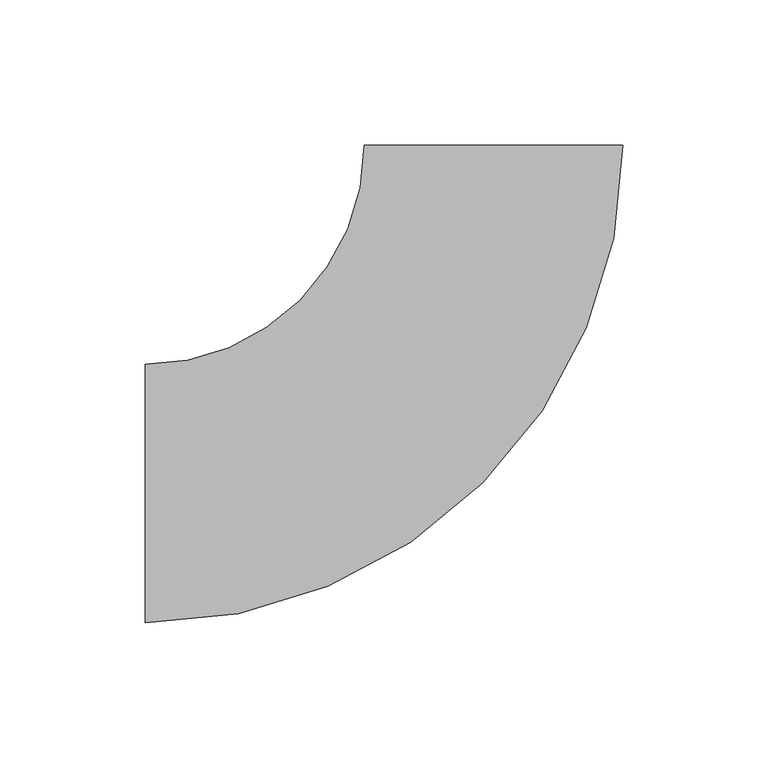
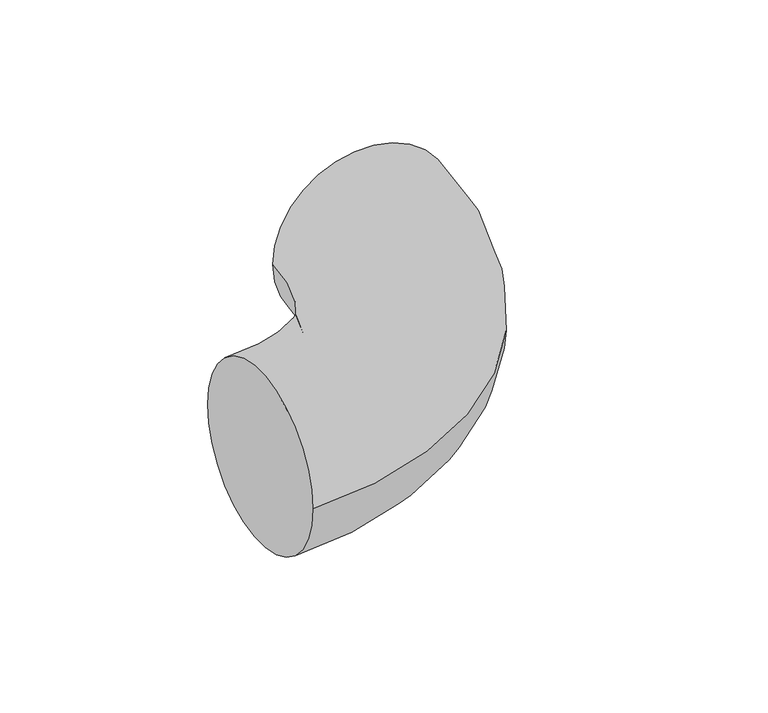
"""IFC4 building model written with IfcOpenShell, lengths in millimetres: pipe fitting geometry, ADSK_ДетальСтальнаяСварная_Отвод_ГОСТ17375-2001 : Исполнение 2."""

from ifc_helpers import new_model, si_unit, point, frame, origin, place, context, project, spatial, circle_curve, ellipse_curve, trimmed, source, transform, mapped, element, save
from ifc_brep_helpers import plane_surface, revolved_surface, advanced_brep


def pipe_fitting_b387f413(model_context):
    return source(origin(), model_context, "Body", "AdvancedBrep", [
        advanced_brep(
        [(-120.0, -44.5, 0.0), (-120.0, 44.5, 0.0), (44.5, 120.0, 0.0), (-44.5, 120.0, 0.0)],
        [
            (0, 1, circle_curve(frame((-120.0, 0.0, 0.0), z_axis=(-1.0, 0.0, 0.0), x_axis=(0.0, 1.0, 0.0)), 44.5)),
            (1, 0, circle_curve(frame((-120.0, 0.0, 0.0), z_axis=(-1.0, 0.0, 0.0), x_axis=(0.0, 1.0, 0.0)), 44.5)),
            (2, 3, circle_curve(frame((0.0, 120.0, 0.0), z_axis=(0.0, 1.0, 0.0), x_axis=(-1.0, 0.0, 0.0)), 44.5)),
            (3, 2, circle_curve(frame((0.0, 120.0, 0.0), z_axis=(0.0, 1.0, 0.0), x_axis=(-1.0, 0.0, 0.0)), 44.5)),
            (3, 1, circle_curve(frame((-120.0, 120.0, 0.0), z_axis=(0.0, 0.0, -1.0), x_axis=(0.0, -1.0, 0.0)), 75.5)),
            (0, 2, circle_curve(frame((-120.0, 120.0, 0.0), z_axis=(0.0, 0.0, 1.0), x_axis=(0.0, -1.0, 0.0)), 164.5)),
        ],
        [
            plane_surface(frame((-120.0, 0.0, 0.0), z_axis=(-1.0, 0.0, 0.0), x_axis=(0.0, 0.0, 1.0))),
            plane_surface(frame((0.0, 120.0, 0.0), z_axis=(0.0, 1.0, 0.0), x_axis=(0.0, 0.0, 1.0))),
            revolved_surface(trimmed(ellipse_curve(frame((-120.0, 0.0, 0.0), z_axis=(-1.0, 0.0, 0.0), x_axis=(0.0, 1.0, 0.0)), 44.5, 44.5), [point((-120.0, -44.5, 0.0))], [point((-120.0, 44.5, 0.0))], True, "CARTESIAN"), (-120.0, 120.0, 0.0), (0.0, 0.0, 1.0)),
            revolved_surface(trimmed(ellipse_curve(frame((-120.0, 0.0, 0.0), z_axis=(-1.0, 0.0, 0.0), x_axis=(0.0, 1.0, 0.0)), 44.5, 44.5), [point((-120.0, 44.5, 0.0))], [point((-120.0, -44.5, 0.0))], True, "CARTESIAN"), (-120.0, 120.0, 0.0), (0.0, 0.0, 1.0)),
        ],
        [
            (0, [[1, 2]]),
            (1, [[3, 4]]),
            (2, [[5, -1, 6, -4]]),
            (3, [[-6, -2, -5, -3]]),
        ],
    ),
    ])


if __name__ == "__main__":
    model = new_model("IFC4")
    model_context = context("Model", 3, world=origin())
    ifc_project = project(units=[si_unit("LENGTHUNIT", "METRE", prefix="MILLI")], contexts=[model_context])
    site = spatial("IfcSite", under=ifc_project)
    building = spatial("IfcBuilding", under=site)
    placement = place(None, origin())
    pipe_fitting_shape = pipe_fitting_b387f413(model_context)
    element("IfcPipeFitting", 1, ObjectType="ADSK_ДетальСтальнаяСварная_Отвод_ГОСТ17375-2001 : Исполнение 2", at=placement, inside=building, context=model_context, shape_type="MappedRepresentation", body=[
        mapped(pipe_fitting_shape, transform((0.0, 0.0, 0.0), x_axis=(1.0, 0.0, 0.0), y_axis=(0.0, 1.0, 0.0), z_axis=(0.0, 0.0, 1.0))),
    ])
    save(model, "model.ifc")
